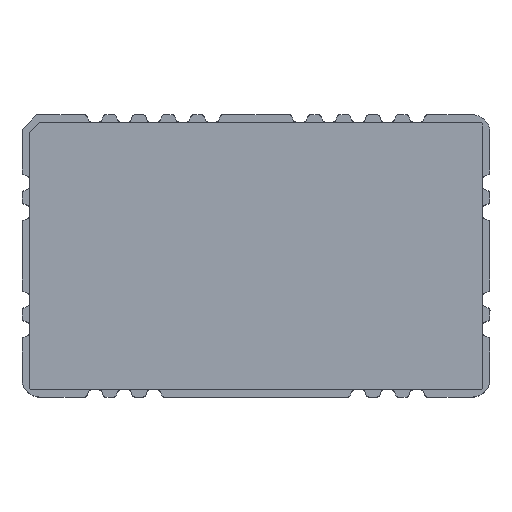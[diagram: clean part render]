
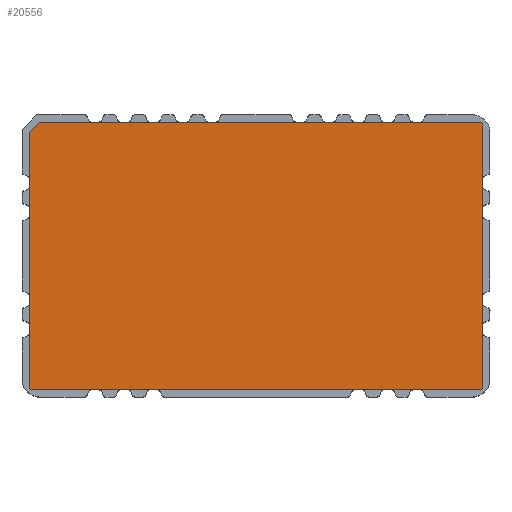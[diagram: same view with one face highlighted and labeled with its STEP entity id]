
A CAD part, top view. The second image highlights one B-rep face of the part: STEP entity #20556.
In plain terms, the highlighted planar face has unit normal (0, 0, 1).
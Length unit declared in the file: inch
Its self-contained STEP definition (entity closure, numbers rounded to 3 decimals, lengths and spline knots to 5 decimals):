
#123 = CARTESIAN_POINT ( 'NONE',  ( 1.22441, 0.00394, 0.05906 ) ) ;
#329 = CARTESIAN_POINT ( 'NONE',  ( 0.01969, -0.70866, 0.05906 ) ) ;
#972 = DIRECTION ( 'NONE',  ( 0., -1., 0. ) ) ;
#1676 = CARTESIAN_POINT ( 'NONE',  ( 0.01181, -0.70079, 0.05906 ) ) ;
#1931 = DIRECTION ( 'NONE',  ( -1., 0., 0. ) ) ;
#2894 = EDGE_CURVE ( 'NONE', #9469, #17612, #11416, .T. ) ;
#3850 = PLANE ( 'NONE',  #10278 ) ;
#3933 = CARTESIAN_POINT ( 'NONE',  ( 0.01969, -0.70079, 0.05906 ) ) ;
#4470 = CARTESIAN_POINT ( 'NONE',  ( 1.22441, -0.70079, 0.05906 ) ) ;
#5132 = CIRCLE ( 'NONE', #14676, 0.00787 ) ;
#5724 = DIRECTION ( 'NONE',  ( -1., 0., 0. ) ) ;
#6009 = EDGE_CURVE ( 'NONE', #6292, #10014, #13707, .T. ) ;
#6268 = DIRECTION ( 'NONE',  ( -1., 0., 0. ) ) ;
#6292 = VERTEX_POINT ( 'NONE', #14586 ) ;
#6300 = DIRECTION ( 'NONE',  ( 0., 1., 0. ) ) ;
#6647 = VECTOR ( 'NONE', #16838, 39.37008 ) ;
#6859 = VECTOR ( 'NONE', #7537, 39.37008 ) ;
#6946 = EDGE_LOOP ( 'NONE', ( #19867, #21956, #17914, #7375, #8859, #19647, #17223, #12381 ) ) ;
#7363 = EDGE_CURVE ( 'NONE', #18702, #6292, #18951, .T. ) ;
#7375 = ORIENTED_EDGE ( 'NONE', *, *, #7363, .F. ) ;
#7537 = DIRECTION ( 'NONE',  ( 1., 0., 0. ) ) ;
#7726 = CARTESIAN_POINT ( 'NONE',  ( 0.03937, 0.01181, 0.05906 ) ) ;
#7851 = EDGE_CURVE ( 'NONE', #21994, #9469, #18934, .T. ) ;
#8326 = EDGE_CURVE ( 'NONE', #8468, #21994, #8846, .T. ) ;
#8468 = VERTEX_POINT ( 'NONE', #10348 ) ;
#8721 = EDGE_CURVE ( 'NONE', #17612, #18702, #19432, .T. ) ;
#8846 = LINE ( 'NONE', #17049, #13035 ) ;
#8859 = ORIENTED_EDGE ( 'NONE', *, *, #8721, .F. ) ;
#9231 = CARTESIAN_POINT ( 'NONE',  ( -0.04921, -0.74469, 0.05906 ) ) ;
#9469 = VERTEX_POINT ( 'NONE', #13138 ) ;
#10014 = VERTEX_POINT ( 'NONE', #7726 ) ;
#10278 = AXIS2_PLACEMENT_3D ( 'NONE', #9231, #21714, #11041 ) ;
#10348 = CARTESIAN_POINT ( 'NONE',  ( 1.23228, 0.00394, 0.05906 ) ) ;
#11041 = DIRECTION ( 'NONE',  ( 1., 0., 0. ) ) ;
#11360 = EDGE_CURVE ( 'NONE', #10014, #14840, #15242, .T. ) ;
#11416 = LINE ( 'NONE', #22146, #6647 ) ;
#11572 = CARTESIAN_POINT ( 'NONE',  ( 1.23228, -0.70079, 0.05906 ) ) ;
#12368 = EDGE_CURVE ( 'NONE', #14840, #8468, #5132, .T. ) ;
#12381 = ORIENTED_EDGE ( 'NONE', *, *, #8326, .F. ) ;
#12624 = DIRECTION ( 'NONE',  ( 0., 0., -1. ) ) ;
#13035 = VECTOR ( 'NONE', #972, 39.37008 ) ;
#13138 = CARTESIAN_POINT ( 'NONE',  ( 1.22441, -0.70866, 0.05906 ) ) ;
#13707 = LINE ( 'NONE', #19042, #22645 ) ;
#13739 = DIRECTION ( 'NONE',  ( 0.707, 0.707, 0. ) ) ;
#14586 = CARTESIAN_POINT ( 'NONE',  ( 0.01181, -0.01575, 0.05906 ) ) ;
#14676 = AXIS2_PLACEMENT_3D ( 'NONE', #123, #12624, #1931 ) ;
#14840 = VERTEX_POINT ( 'NONE', #19140 ) ;
#14884 = FACE_OUTER_BOUND ( 'NONE', #6946, .T. ) ;
#15187 = CARTESIAN_POINT ( 'NONE',  ( 0.01181, -0.73504, 0.05906 ) ) ;
#15242 = LINE ( 'NONE', #20027, #6859 ) ;
#16413 = DIRECTION ( 'NONE',  ( 0., 0., -1. ) ) ;
#16838 = DIRECTION ( 'NONE',  ( -1., 0., 0. ) ) ;
#16943 = DIRECTION ( 'NONE',  ( 0., 0., -1. ) ) ;
#17049 = CARTESIAN_POINT ( 'NONE',  ( 1.23228, -0.73602, 0.05906 ) ) ;
#17223 = ORIENTED_EDGE ( 'NONE', *, *, #7851, .F. ) ;
#17612 = VERTEX_POINT ( 'NONE', #329 ) ;
#17879 = AXIS2_PLACEMENT_3D ( 'NONE', #4470, #16943, #6268 ) ;
#17914 = ORIENTED_EDGE ( 'NONE', *, *, #6009, .F. ) ;
#18702 = VERTEX_POINT ( 'NONE', #1676 ) ;
#18934 = CIRCLE ( 'NONE', #17879, 0.00787 ) ;
#18951 = LINE ( 'NONE', #15187, #23127 ) ;
#19042 = CARTESIAN_POINT ( 'NONE',  ( 0.01043, -0.01713, 0.05906 ) ) ;
#19140 = CARTESIAN_POINT ( 'NONE',  ( 1.22441, 0.01181, 0.05906 ) ) ;
#19432 = CIRCLE ( 'NONE', #21340, 0.00787 ) ;
#19647 = ORIENTED_EDGE ( 'NONE', *, *, #2894, .F. ) ;
#19867 = ORIENTED_EDGE ( 'NONE', *, *, #12368, .F. ) ;
#20027 = CARTESIAN_POINT ( 'NONE',  ( -0.01988, 0.01181, 0.05906 ) ) ;
#20556 = ADVANCED_FACE ( 'NONE', ( #14884 ), #3850, .T. ) ;
#21340 = AXIS2_PLACEMENT_3D ( 'NONE', #3933, #16413, #5724 ) ;
#21714 = DIRECTION ( 'NONE',  ( 0., 0., 1. ) ) ;
#21956 = ORIENTED_EDGE ( 'NONE', *, *, #11360, .F. ) ;
#21994 = VERTEX_POINT ( 'NONE', #11572 ) ;
#22146 = CARTESIAN_POINT ( 'NONE',  ( 0.01181, -0.70866, 0.05906 ) ) ;
#22645 = VECTOR ( 'NONE', #13739, 39.37008 ) ;
#23127 = VECTOR ( 'NONE', #6300, 39.37008 ) ;
